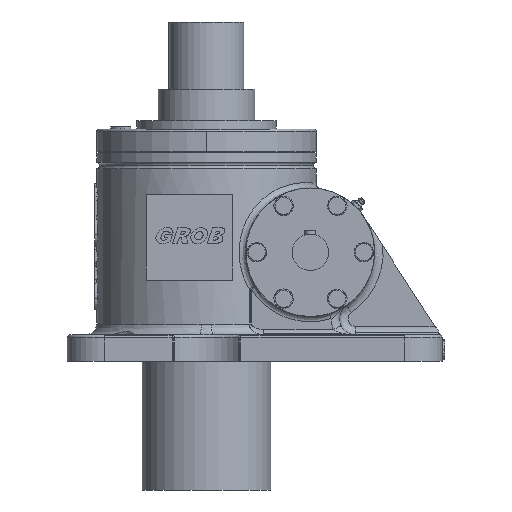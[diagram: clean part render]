
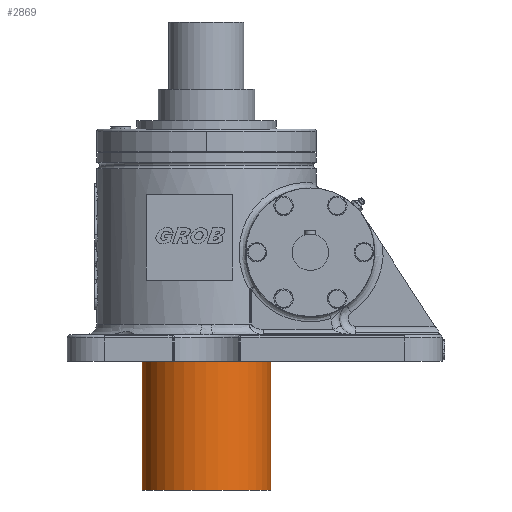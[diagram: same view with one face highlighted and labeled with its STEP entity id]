
A CAD part, front view. The second image highlights one B-rep face of the part: STEP entity #2869.
In plain terms, the highlighted cylindrical face has radius 60 mm (diameter 120 mm), a partial arc.
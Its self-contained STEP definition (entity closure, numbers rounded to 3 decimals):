
#2869=ADVANCED_FACE('',(#8534),#8535,.T.);
#8534=FACE_OUTER_BOUND('',#16208,.T.);
#8535=CYLINDRICAL_SURFACE('',#16209,60.0);
#16208=EDGE_LOOP('',(#38965,#38966,#38967,#38968));
#16209=AXIS2_PLACEMENT_3D('',#38969,#38970,#38971);
#38965=ORIENTED_EDGE('',*,*,#46538,.T.);
#38966=ORIENTED_EDGE('',*,*,#46542,.F.);
#38967=ORIENTED_EDGE('',*,*,#46540,.T.);
#38968=ORIENTED_EDGE('',*,*,#46543,.F.);
#38969=CARTESIAN_POINT('',(0.,0.,-60.0));
#38970=DIRECTION('',(0.,0.,-1.0));
#38971=DIRECTION('',(-1.0,0.,0.0));
#46538=EDGE_CURVE('',#58952,#58953,#58954,.T.);
#46540=EDGE_CURVE('',#58957,#58955,#58958,.T.);
#46542=EDGE_CURVE('',#58957,#58953,#58960,.T.);
#46543=EDGE_CURVE('',#58952,#58955,#58961,.T.);
#58952=VERTEX_POINT('',#77740);
#58953=VERTEX_POINT('',#77741);
#58954=LINE('',#77742,#77743);
#58955=VERTEX_POINT('',#77744);
#58957=VERTEX_POINT('',#77746);
#58958=LINE('',#77747,#77748);
#58960=CIRCLE('',#77750,60.0);
#58961=CIRCLE('',#77751,60.0);
#77740=CARTESIAN_POINT('',(-60.0,0.,0.0));
#77741=CARTESIAN_POINT('',(-60.0,0.,-120.0));
#77742=CARTESIAN_POINT('',(-60.0,0.,-60.0));
#77743=VECTOR('',#93056,1.0);
#77744=CARTESIAN_POINT('',(60.0,0.,0.));
#77746=CARTESIAN_POINT('',(60.0,0.,-120.0));
#77747=CARTESIAN_POINT('',(60.0,0.,-60.0));
#77748=VECTOR('',#93060,1.0);
#77750=AXIS2_PLACEMENT_3D('',#93064,#93065,#93066);
#77751=AXIS2_PLACEMENT_3D('',#93067,#93068,#93069);
#93056=DIRECTION('',(0.,0.,-1.0));
#93060=DIRECTION('',(0.,0.,1.0));
#93064=CARTESIAN_POINT('',(0.,0.,-120.0));
#93065=DIRECTION('',(0.,0.,-1.0));
#93066=DIRECTION('',(-1.0,0.,0.0));
#93067=CARTESIAN_POINT('',(0.0,0.0,0.0));
#93068=DIRECTION('',(0.,0.,1.0));
#93069=DIRECTION('',(-1.0,0.,0.0));
